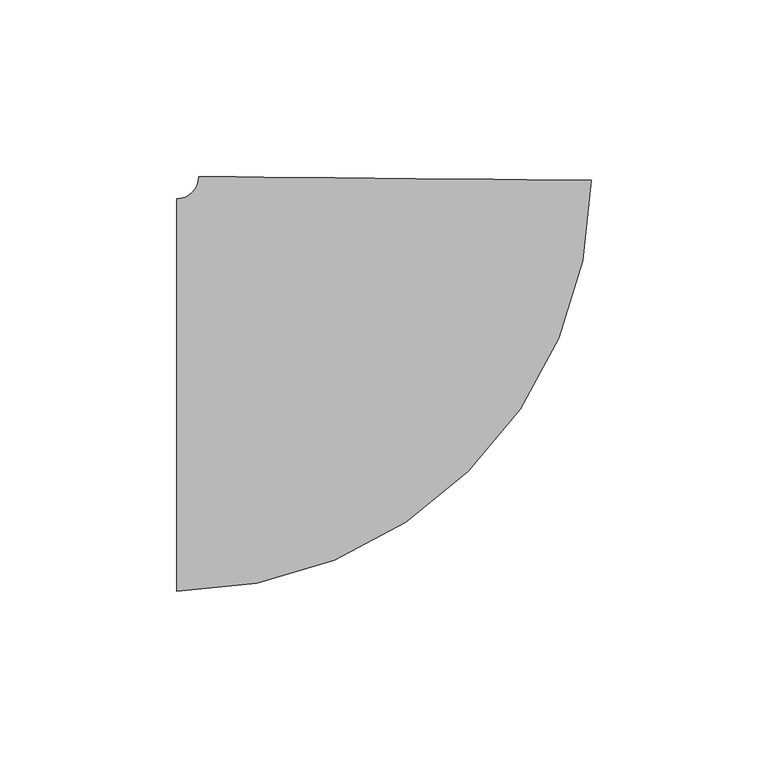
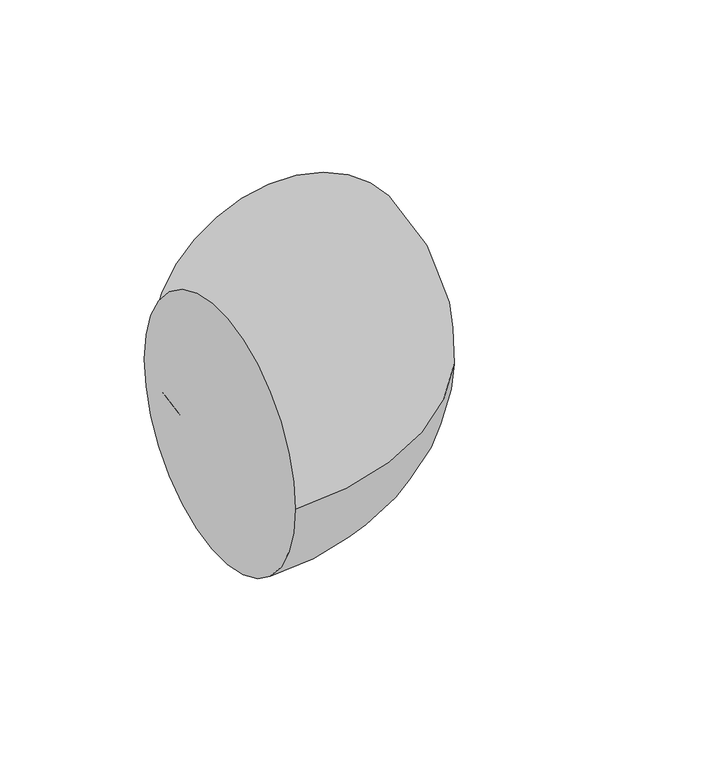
"""IFC4 building model written with IfcOpenShell, lengths in millimetres: pipe fitting geometry, M_Codo - Genérico : Estándar."""

from ifc_helpers import new_model, si_unit, point, frame, origin, place, context, project, spatial, circle_curve, ellipse_curve, trimmed, source, transform, mapped, element, save
from ifc_brep_helpers import plane_surface, revolved_surface, advanced_brep


def pipe_fitting_18fceb57(model_context):
    return source(origin(), model_context, "Body", "AdvancedBrep", [
        advanced_brep(
        [(-61.3212218, -55.5875, 0.0), (-61.3212218, 55.5875, 0.0), (56.1979024, 60.7623088, 0.0), (-54.9715393, 61.8740032, 0.0)],
        [
            (0, 1, circle_curve(frame((-61.3212218, 0.0, 0.0), z_axis=(-1.0, 0.0, 0.0), x_axis=(0.0, 1.0, 0.0)), 55.5875)),
            (1, 0, circle_curve(frame((-61.3212218, 0.0, 0.0), z_axis=(-1.0, 0.0, 0.0), x_axis=(0.0, 1.0, 0.0)), 55.5875)),
            (2, 3, circle_curve(frame((0.6131816, 61.318156, 0.0), z_axis=(0.00999950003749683, 0.9999500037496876, 0.0), x_axis=(-0.9999500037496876, 0.00999950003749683, 0.0)), 55.5875)),
            (3, 2, circle_curve(frame((0.6131816, 61.318156, 0.0), z_axis=(0.00999950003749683, 0.9999500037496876, 0.0), x_axis=(-0.9999500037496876, 0.00999950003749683, 0.0)), 55.5875)),
            (3, 1, circle_curve(frame((-61.3212218, 61.9375, 0.0), z_axis=(0.0, 0.0, -1.0), x_axis=(0.0, -1.0, 0.0)), 6.35)),
            (0, 2, circle_curve(frame((-61.3212218, 61.9375, 0.0), z_axis=(0.0, 0.0, 1.0), x_axis=(0.0, -1.0, 0.0)), 117.525)),
        ],
        [
            plane_surface(frame((-61.3212218, 0.0, 0.0), z_axis=(-1.0, 0.0, 0.0), x_axis=(0.0, 0.0, 1.0))),
            plane_surface(frame((0.6131816, 61.318156, 0.0), z_axis=(0.009999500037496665, 0.9999500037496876, 0.0), x_axis=(0.0, 0.0, 1.0))),
            revolved_surface(trimmed(ellipse_curve(frame((-61.3212218, 0.0, 0.0), z_axis=(-1.0, 0.0, 0.0), x_axis=(0.0, 1.0, 0.0)), 55.5875, 55.5875), [point((-61.3212218, -55.5875, 0.0))], [point((-61.3212218, 55.5875, 0.0))], True, "CARTESIAN"), (-61.3212218, 61.9375, 0.0), (0.0, 0.0, 1.0)),
            revolved_surface(trimmed(ellipse_curve(frame((-61.3212218, 0.0, 0.0), z_axis=(-1.0, 0.0, 0.0), x_axis=(0.0, 1.0, 0.0)), 55.5875, 55.5875), [point((-61.3212218, 55.5875, 0.0))], [point((-61.3212218, -55.5875, 0.0))], True, "CARTESIAN"), (-61.3212218, 61.9375, 0.0), (0.0, 0.0, 1.0)),
        ],
        [
            (0, [[1, 2]]),
            (1, [[3, 4]]),
            (2, [[5, -1, 6, -4]]),
            (3, [[-6, -2, -5, -3]]),
        ],
    ),
    ])


if __name__ == "__main__":
    model = new_model("IFC4")
    model_context = context("Model", 3, world=origin())
    ifc_project = project(units=[si_unit("LENGTHUNIT", "METRE", prefix="MILLI")], contexts=[model_context])
    site = spatial("IfcSite", under=ifc_project)
    building = spatial("IfcBuilding", under=site)
    placement = place(None, origin())
    pipe_fitting_shape = pipe_fitting_18fceb57(model_context)
    element("IfcPipeFitting", 1, ObjectType="M_Codo - Genérico : Estándar", at=placement, inside=building, context=model_context, shape_type="MappedRepresentation", body=[
        mapped(pipe_fitting_shape, transform((0.0, 0.0, 0.0), x_axis=(1.0, 0.0, 0.0), y_axis=(0.0, 1.0, 0.0), z_axis=(0.0, 0.0, 1.0))),
    ])
    save(model, "model.ifc")
